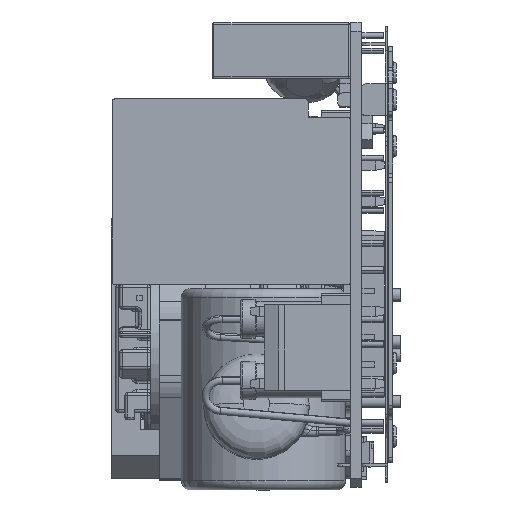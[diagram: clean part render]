
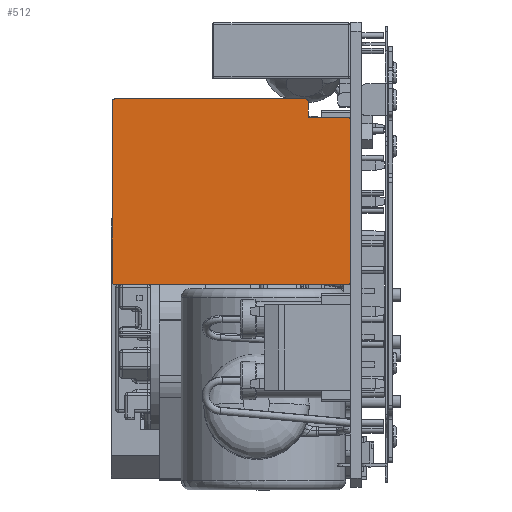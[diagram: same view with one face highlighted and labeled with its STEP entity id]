
A CAD part, left-side view. The second image highlights one B-rep face of the part: STEP entity #512.
In plain terms, the highlighted planar face has unit normal (-1, 0, 0) as drawn and (0, -1, 0) by its records, which use the part's own axes.
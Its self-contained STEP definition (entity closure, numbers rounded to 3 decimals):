
#198=CARTESIAN_POINT('',(0.3,0.,-25.7));
#199=DIRECTION('',(0.,-1.,0.));
#200=DIRECTION('',(-1.,0.,0.));
#201=AXIS2_PLACEMENT_3D('',#198,#199,#200);
#206=DIRECTION('',(0.,0.,1.));
#207=VECTOR('',#206,20.8);
#208=CARTESIAN_POINT('',(0.,0.,-25.7));
#209=LINE('',#208,#207);
#213=CARTESIAN_POINT('',(0.3,0.,-4.9));
#214=DIRECTION('',(0.,-1.,0.));
#215=DIRECTION('',(0.,0.,1.));
#216=AXIS2_PLACEMENT_3D('',#213,#214,#215);
#221=DIRECTION('',(1.,0.,0.));
#222=VECTOR('',#221,1.7);
#223=CARTESIAN_POINT('',(0.3,0.,-4.6));
#224=LINE('',#223,#222);
#228=DIRECTION('',(0.,0.,1.));
#229=VECTOR('',#228,4.3);
#230=CARTESIAN_POINT('',(2.,0.,-4.6));
#231=LINE('',#230,#229);
#235=CARTESIAN_POINT('',(2.3,0.,-0.3));
#236=DIRECTION('',(0.,-1.,0.));
#237=DIRECTION('',(0.,0.,1.));
#238=AXIS2_PLACEMENT_3D('',#235,#236,#237);
#243=DIRECTION('',(1.,0.,0.));
#244=VECTOR('',#243,17.7);
#245=CARTESIAN_POINT('',(2.3,0.,0.));
#246=LINE('',#245,#244);
#250=CARTESIAN_POINT('',(20.,0.,-0.3));
#251=DIRECTION('',(0.,-1.,0.));
#252=DIRECTION('',(1.,0.,0.));
#253=AXIS2_PLACEMENT_3D('',#250,#251,#252);
#258=DIRECTION('',(0.,0.,-1.));
#259=VECTOR('',#258,25.4);
#260=CARTESIAN_POINT('',(20.3,0.,-0.3));
#261=LINE('',#260,#259);
#265=CARTESIAN_POINT('',(20.,0.,-25.7));
#266=DIRECTION('',(0.,-1.,0.));
#267=DIRECTION('',(0.,0.,-1.));
#268=AXIS2_PLACEMENT_3D('',#265,#266,#267);
#273=DIRECTION('',(-1.,0.,0.));
#274=VECTOR('',#273,19.7);
#275=CARTESIAN_POINT('',(20.,0.,-26.));
#276=LINE('',#275,#274);
#439=CARTESIAN_POINT('',(2.,0.,-4.6));
#441=VERTEX_POINT('',#439);
#443=CARTESIAN_POINT('',(0.,0.,-25.7));
#444=CARTESIAN_POINT('',(0.3,0.,-26.));
#445=VERTEX_POINT('',#443);
#446=VERTEX_POINT('',#444);
#451=CARTESIAN_POINT('',(20.,0.,-26.));
#452=CARTESIAN_POINT('',(20.3,0.,-25.7));
#453=VERTEX_POINT('',#451);
#454=VERTEX_POINT('',#452);
#459=CARTESIAN_POINT('',(0.3,0.,-4.6));
#460=CARTESIAN_POINT('',(0.,0.,-4.9));
#461=VERTEX_POINT('',#459);
#462=VERTEX_POINT('',#460);
#467=CARTESIAN_POINT('',(2.3,0.,0.));
#468=CARTESIAN_POINT('',(2.,0.,-0.3));
#469=VERTEX_POINT('',#467);
#470=VERTEX_POINT('',#468);
#475=CARTESIAN_POINT('',(20.3,0.,-0.3));
#476=CARTESIAN_POINT('',(20.,0.,0.));
#477=VERTEX_POINT('',#475);
#478=VERTEX_POINT('',#476);
#483=CARTESIAN_POINT('',(0.,0.,0.));
#484=DIRECTION('',(0.,1.,0.));
#485=DIRECTION('',(1.,0.,0.));
#486=AXIS2_PLACEMENT_3D('',#483,#484,#485);
#487=PLANE('',#486);
#489=ORIENTED_EDGE('',*,*,#488,.F.);
#491=ORIENTED_EDGE('',*,*,#490,.T.);
#493=ORIENTED_EDGE('',*,*,#492,.F.);
#495=ORIENTED_EDGE('',*,*,#494,.T.);
#497=ORIENTED_EDGE('',*,*,#496,.T.);
#499=ORIENTED_EDGE('',*,*,#498,.F.);
#501=ORIENTED_EDGE('',*,*,#500,.T.);
#503=ORIENTED_EDGE('',*,*,#502,.F.);
#505=ORIENTED_EDGE('',*,*,#504,.T.);
#507=ORIENTED_EDGE('',*,*,#506,.F.);
#509=ORIENTED_EDGE('',*,*,#508,.T.);
#510=EDGE_LOOP('',(#489,#491,#493,#495,#497,#499,#501,#503,#505,#507,#509));
#511=FACE_OUTER_BOUND('',#510,.F.);
#202=CIRCLE('',#201,0.3);
#217=CIRCLE('',#216,0.3);
#239=CIRCLE('',#238,0.3);
#254=CIRCLE('',#253,0.3);
#269=CIRCLE('',#268,0.3);
#488=EDGE_CURVE('',#445,#446,#202,.T.);
#490=EDGE_CURVE('',#445,#462,#209,.T.);
#492=EDGE_CURVE('',#461,#462,#217,.T.);
#494=EDGE_CURVE('',#461,#441,#224,.T.);
#496=EDGE_CURVE('',#441,#470,#231,.T.);
#498=EDGE_CURVE('',#469,#470,#239,.T.);
#500=EDGE_CURVE('',#469,#478,#246,.T.);
#502=EDGE_CURVE('',#477,#478,#254,.T.);
#504=EDGE_CURVE('',#477,#454,#261,.T.);
#506=EDGE_CURVE('',#453,#454,#269,.T.);
#508=EDGE_CURVE('',#453,#446,#276,.T.);
#512=ADVANCED_FACE('',(#511),#487,.F.);
